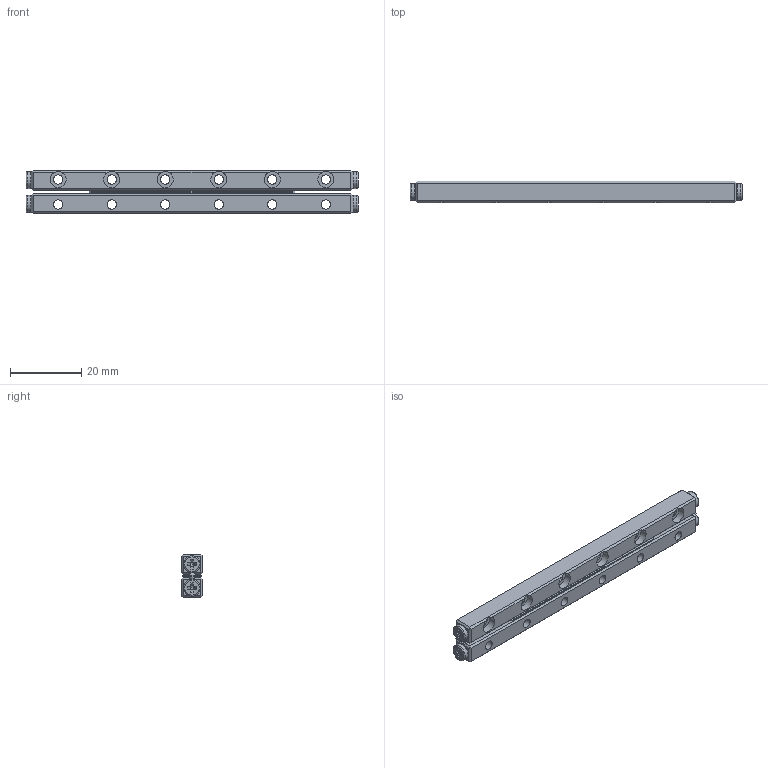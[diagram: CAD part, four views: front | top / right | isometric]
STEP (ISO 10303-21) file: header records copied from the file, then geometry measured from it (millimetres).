
FILE_DESCRIPTION (( 'STEP AP203' ), '1' );
FILE_NAME ('GRG02-0090-模糊化軌道組.STEP', '2022-10-05T06:45:42', ( '' ), ( '' ), 'SwSTEP 2.0', 'SolidWorks 2019', '' );
FILE_SCHEMA (( 'CONFIG_CONTROL_DESIGN' ));
Length unit declared in the file: millimetre
Products named in the file (1): GRG02-0090-模糊化軌道組
Bounding box: 93 x 6 x 12 mm (x, y, z)
Volume: 5268.4 mm3; surface area: 5850.2 mm2
Topology: 3 solids, 7 shells, 502 faces, 1184 edges, 744 vertices
Faces by surface type: plane 372, cylinder 58, cone 40, torus 32
Full cylindrical faces by diameter (mm): 2.1 x4, 2.6 x12, 4.5 x12, 4.7 x4
Entity records: 14065 total; most frequent: CARTESIAN_POINT 2979, ORIENTED_EDGE 2208, DIRECTION 2194, EDGE_CURVE 1104, LINE 756, VECTOR 756, AXIS2_PLACEMENT_3D 719, VERTEX_POINT 712
